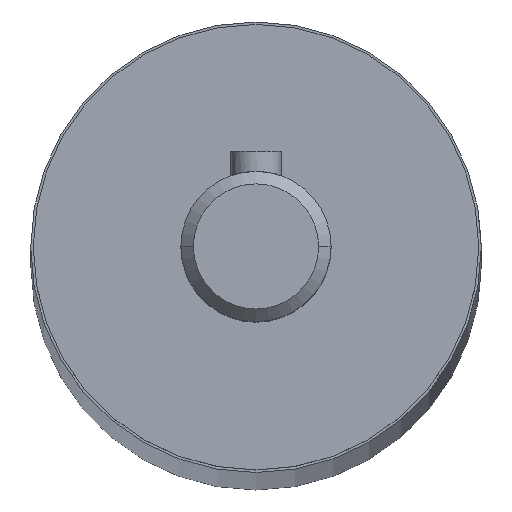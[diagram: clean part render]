
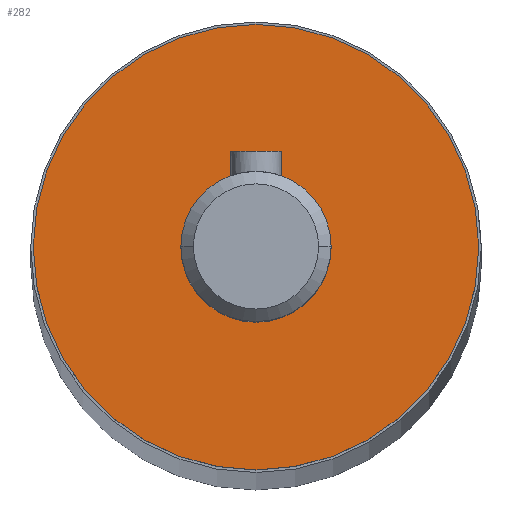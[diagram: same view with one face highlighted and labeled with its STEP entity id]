
A CAD part, top view. The second image highlights one B-rep face of the part: STEP entity #282.
In plain terms, the highlighted planar face has unit normal (0, 0, 1).
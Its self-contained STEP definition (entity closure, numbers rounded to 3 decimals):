
#22 = AXIS2_PLACEMENT_3D ( 'NONE', #970, #1547, #541 ) ;
#40 = DIRECTION ( 'NONE',  ( 1., 0., 0. ) ) ;
#181 = VERTEX_POINT ( 'NONE', #956 ) ;
#196 = CARTESIAN_POINT ( 'NONE',  ( 0., 0., 202.5 ) ) ;
#200 = CARTESIAN_POINT ( 'NONE',  ( 3., 0., 202.5 ) ) ;
#282 = ADVANCED_FACE ( 'NONE', ( #1669, #1530 ), #294, .T. ) ;
#287 = ORIENTED_EDGE ( 'NONE', *, *, #511, .T. ) ;
#294 = PLANE ( 'NONE',  #561 ) ;
#340 = CARTESIAN_POINT ( 'NONE',  ( 0., 0., 202.5 ) ) ;
#376 = DIRECTION ( 'NONE',  ( 0., 0., 1. ) ) ;
#383 = VERTEX_POINT ( 'NONE', #200 ) ;
#511 = EDGE_CURVE ( 'NONE', #181, #882, #903, .T. ) ;
#518 = DIRECTION ( 'NONE',  ( 0., 0., 1. ) ) ;
#533 = CIRCLE ( 'NONE', #690, 8.9 ) ;
#541 = DIRECTION ( 'NONE',  ( 1., 0., 0. ) ) ;
#554 = VERTEX_POINT ( 'NONE', #1805 ) ;
#561 = AXIS2_PLACEMENT_3D ( 'NONE', #731, #582, #853 ) ;
#582 = DIRECTION ( 'NONE',  ( 0., 0., 1. ) ) ;
#617 = EDGE_LOOP ( 'NONE', ( #1058, #1541 ) ) ;
#690 = AXIS2_PLACEMENT_3D ( 'NONE', #340, #376, #1843 ) ;
#696 = EDGE_CURVE ( 'NONE', #383, #554, #1452, .T. ) ;
#731 = CARTESIAN_POINT ( 'NONE',  ( 0., 0., 202.5 ) ) ;
#845 = CIRCLE ( 'NONE', #22, 3. ) ;
#853 = DIRECTION ( 'NONE',  ( 1., 0., 0. ) ) ;
#857 = EDGE_CURVE ( 'NONE', #882, #181, #533, .T. ) ;
#882 = VERTEX_POINT ( 'NONE', #985 ) ;
#903 = CIRCLE ( 'NONE', #1297, 8.9 ) ;
#952 = CARTESIAN_POINT ( 'NONE',  ( 0., 0., 202.5 ) ) ;
#956 = CARTESIAN_POINT ( 'NONE',  ( -8.9, 0., 202.5 ) ) ;
#970 = CARTESIAN_POINT ( 'NONE',  ( 0., 0., 202.5 ) ) ;
#985 = CARTESIAN_POINT ( 'NONE',  ( 8.9, 0., 202.5 ) ) ;
#1058 = ORIENTED_EDGE ( 'NONE', *, *, #1381, .F. ) ;
#1138 = ORIENTED_EDGE ( 'NONE', *, *, #857, .T. ) ;
#1181 = DIRECTION ( 'NONE',  ( 0., 0., 1. ) ) ;
#1227 = EDGE_LOOP ( 'NONE', ( #287, #1138 ) ) ;
#1277 = DIRECTION ( 'NONE',  ( 1., 0., 0. ) ) ;
#1297 = AXIS2_PLACEMENT_3D ( 'NONE', #952, #518, #1277 ) ;
#1381 = EDGE_CURVE ( 'NONE', #554, #383, #845, .T. ) ;
#1452 = CIRCLE ( 'NONE', #1742, 3. ) ;
#1530 = FACE_OUTER_BOUND ( 'NONE', #1227, .T. ) ;
#1541 = ORIENTED_EDGE ( 'NONE', *, *, #696, .F. ) ;
#1547 = DIRECTION ( 'NONE',  ( 0., 0., 1. ) ) ;
#1669 = FACE_BOUND ( 'NONE', #617, .T. ) ;
#1742 = AXIS2_PLACEMENT_3D ( 'NONE', #196, #1181, #40 ) ;
#1805 = CARTESIAN_POINT ( 'NONE',  ( -3., 0., 202.5 ) ) ;
#1843 = DIRECTION ( 'NONE',  ( 1., 0., 0. ) ) ;
